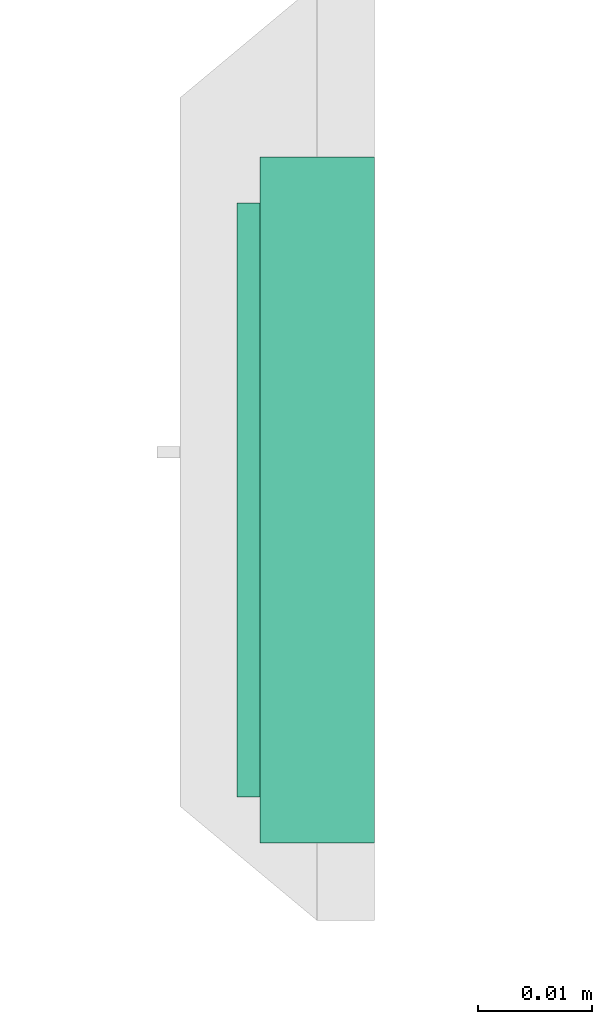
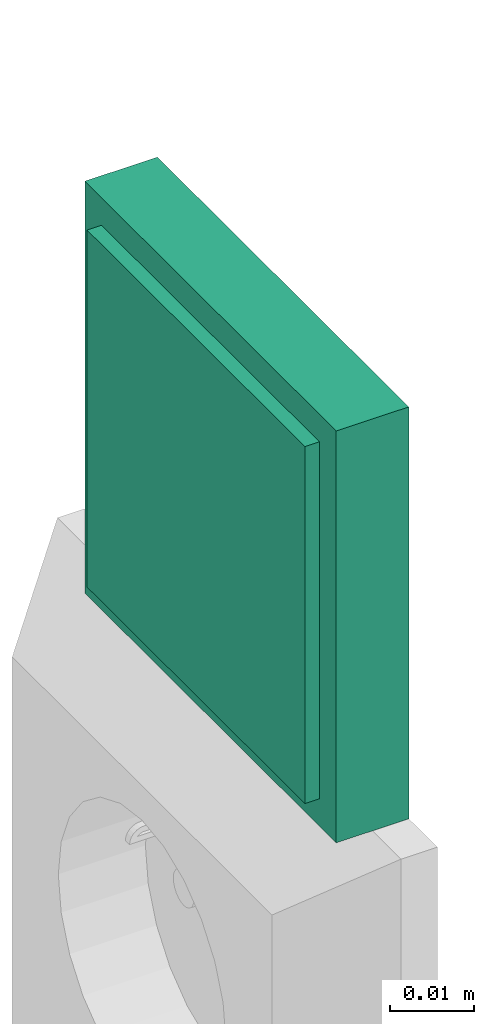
# One storey, part 24 of 24: 1 flow controller.
"""IFC2X3 building model written with IfcOpenShell, lengths in millimetres."""

from ifc_helpers import new_model, entity, si_unit, converted_unit, derived_unit, direction, frame, origin_with_axes, place, context, subcontext, project, spatial, open_shell, surface_model, source, transform, mapped, type_object, element, save


model = new_model("IFC2X3")

# Units and contexts
model_context = context("Model", 3, precision=0.01, world=frame((0.0, 4.29681676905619e-09, 0.0)), true_north=direction((4.01073788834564e-13, 1.0)))
plan_context = context("Plan", 3, precision=0.01, world=frame((0.0, 4.29681676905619e-09, 0.0)), true_north=direction((4.01073788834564e-13, 1.0)))
body_context = subcontext(model_context, "Body", "Model", "MODEL_VIEW")
ifc_project = project(units=[converted_unit("PLANEANGLEUNIT", "DEGREE", entity("IfcPositiveLengthMeasure", 0.0174532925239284), si_unit("PLANEANGLEUNIT", "RADIAN"), dimensions=[0, 0, 0, 0, 0, 0, 0]), si_unit("AREAUNIT", "SQUARE_METRE"), si_unit("LENGTHUNIT", "METRE", prefix="MILLI"), si_unit("MASSUNIT", "GRAM", prefix="KILO"), si_unit("POWERUNIT", "WATT"), si_unit("PRESSUREUNIT", "PASCAL"), si_unit("FORCEUNIT", "NEWTON", prefix="KILO"), si_unit("ELECTRICVOLTAGEUNIT", "VOLT"), si_unit("ELECTRICCURRENTUNIT", "AMPERE"), si_unit("THERMODYNAMICTEMPERATUREUNIT", "DEGREE_CELSIUS"), si_unit("TIMEUNIT", "SECOND"), si_unit("VOLUMEUNIT", "CUBIC_METRE"), derived_unit("LINEARVELOCITYUNIT", [(si_unit("LENGTHUNIT", "METRE"), 1), (si_unit("TIMEUNIT", "SECOND"), -1)]), derived_unit("VOLUMETRICFLOWRATEUNIT", [(si_unit("VOLUMEUNIT", "CUBIC_METRE"), 1), (si_unit("TIMEUNIT", "SECOND"), -1)]), derived_unit("THERMALTRANSMITTANCEUNIT", [(si_unit("POWERUNIT", "WATT"), 1), (si_unit("THERMODYNAMICTEMPERATUREUNIT", "KELVIN"), -1), (si_unit("AREAUNIT", "SQUARE_METRE"), -1)]), derived_unit("SOUNDPRESSUREUNIT", [(si_unit("PRESSUREUNIT", "PASCAL"), 1)])], contexts=[model_context, plan_context])

# Site, building, storey
site_placement = place(None, frame((0.0, -4.29681676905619e-09, 0.0), z_axis=(0.0, 0.0, 1.0), x_axis=(1.0, 0.0, 0.0)))
site = spatial("IfcSite", under=ifc_project, at=site_placement, Name="ENGM", CompositionType="ELEMENT")
building_placement = place(site_placement, frame((0.0, 4.29681676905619e-09, 0.0), z_axis=(0.0, 0.0, 1.0), x_axis=(1.0, 0.0, 0.0)))
building = spatial("IfcBuilding", under=site, at=building_placement, Name="TH", CompositionType="ELEMENT")
storey_placement = place(building_placement, frame((0.0, 0.0, 210200.0), z_axis=(0.0, 0.0, 1.0), x_axis=(1.0, 0.0, 0.0)))
storey = spatial("IfcBuildingStorey", under=building, at=storey_placement, Name="Nivå F - 0,7 m", CompositionType="ELEMENT", Elevation=210200.0)

# Flow controller
switching_device_type = type_object("IfcSwitchingDeviceType", Name="2006015", PredefinedType="NOTDEFINED")
shared_shape = source(origin_with_axes(), body_context, "Body", "SurfaceModel", [
    surface_model("IfcShellBasedSurfaceModel", [(26.0, 12.0, 26.0), (26.0, 12.0, -26.0), (-26.0, 12.0, -26.0), (-26.0, 12.0, 26.0), (-26.0, 10.0, 26.0), (-26.0, 10.0, -26.0), (26.0, 10.0, -26.0), (26.0, 10.0, 26.0), (-30.0, 0.0, -30.0), (30.0, 0.0, -30.0), (30.0, 0.0, 30.0), (-30.0, 0.0, 30.0), (-30.0, 10.0, 30.0), (30.0, 10.0, 30.0), (30.0, 10.0, -30.0), (-30.0, 10.0, -30.0)], [open_shell([[[0, 1, 2]], [[2, 3, 0]], [[4, 5, 6]], [[6, 7, 4]], [[2, 1, 6]], [[6, 5, 2]], [[3, 2, 5]], [[5, 4, 3]], [[0, 3, 4]], [[4, 7, 0]], [[1, 0, 7]], [[7, 6, 1]], [[8, 9, 10]], [[10, 11, 8]], [[12, 13, 14]], [[14, 15, 12]], [[10, 9, 14]], [[14, 13, 10]], [[11, 10, 13]], [[13, 12, 11]], [[8, 11, 12]], [[12, 15, 8]], [[9, 8, 15]], [[15, 14, 9]]])]),
])
flow_controller_placement = place(storey_placement, frame((896000.0, 479911.22944, 1000.0), z_axis=(0.0, 0.0, 1.0), x_axis=(0.0, 1.0, 0.0)))
element("IfcFlowController", 1, at=flow_controller_placement, inside=storey, type_object=switching_device_type, Name="2006015", context=body_context, shape_type="MappedRepresentation", body=[
    mapped(shared_shape, transform((0.0, 0.0, 0.0), scale=1.0)),
])

save(model, "model.ifc")
